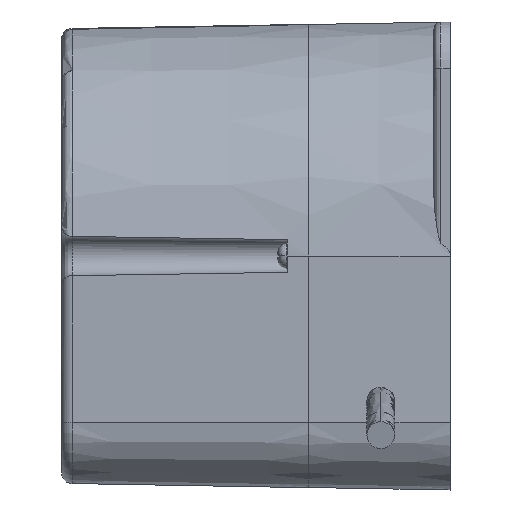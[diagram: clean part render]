
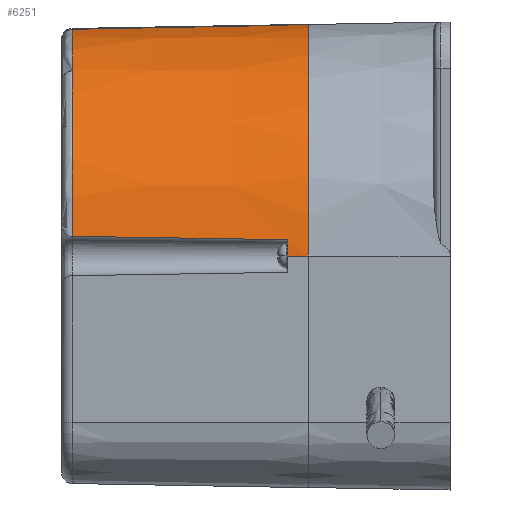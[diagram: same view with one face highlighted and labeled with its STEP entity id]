
A CAD part, left-side view. The second image highlights one B-rep face of the part: STEP entity #6251.
In plain terms, the highlighted conical face has half-angle 1 degrees and reference radius 32.672 mm.
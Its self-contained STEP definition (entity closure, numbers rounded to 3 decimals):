
#65 = DIRECTION ( 'NONE',  ( -0.017, -1., 0. ) ) ;
#66 = EDGE_CURVE ( 'NONE', #881, #758, #4451, .T. ) ;
#89 = ORIENTED_EDGE ( 'NONE', *, *, #269, .T. ) ;
#147 = EDGE_CURVE ( 'NONE', #3798, #358, #4601, .T. ) ;
#155 = DIRECTION ( 'NONE',  ( 0., 0., 1. ) ) ;
#234 = FACE_OUTER_BOUND ( 'NONE', #5411, .T. ) ;
#269 = EDGE_CURVE ( 'NONE', #758, #4736, #1446, .T. ) ;
#288 = CARTESIAN_POINT ( 'NONE',  ( -32.62, 3., 0. ) ) ;
#358 = VERTEX_POINT ( 'NONE', #6390 ) ;
#367 = CARTESIAN_POINT ( 'NONE',  ( -32.088, 27.084, 2.679 ) ) ;
#539 = AXIS2_PLACEMENT_3D ( 'NONE', #1522, #1096, #3012 ) ;
#683 = CARTESIAN_POINT ( 'NONE',  ( -2.777, 33.324, 31.97 ) ) ;
#749 = CARTESIAN_POINT ( 'NONE',  ( -2.565, 19.859, 32.223 ) ) ;
#758 = VERTEX_POINT ( 'NONE', #4226 ) ;
#818 = CARTESIAN_POINT ( 'NONE',  ( 0., 3., 0. ) ) ;
#846 = DIRECTION ( 'NONE',  ( 0., -1., 0.017 ) ) ;
#875 = CARTESIAN_POINT ( 'NONE',  ( -32.029, 30.171, 2.727 ) ) ;
#881 = VERTEX_POINT ( 'NONE', #6340 ) ;
#941 = CARTESIAN_POINT ( 'NONE',  ( 0., 0., 32.672 ) ) ;
#979 = CARTESIAN_POINT ( 'NONE',  ( -31.97, 33.326, 2.777 ) ) ;
#1051 = CARTESIAN_POINT ( 'NONE',  ( -31.97, 33.324, 2.777 ) ) ;
#1081 = CARTESIAN_POINT ( 'NONE',  ( -2.777, 33.324, 31.97 ) ) ;
#1096 = DIRECTION ( 'NONE',  ( 0., -1., 0. ) ) ;
#1099 = EDGE_CURVE ( 'NONE', #2216, #2891, #5675, .T. ) ;
#1145 = CARTESIAN_POINT ( 'NONE',  ( 0., 3., 0. ) ) ;
#1199 = CARTESIAN_POINT ( 'NONE',  ( -2.737, 30.816, 32.017 ) ) ;
#1304 = CARTESIAN_POINT ( 'NONE',  ( 0., 0., 0. ) ) ;
#1346 = DIRECTION ( 'NONE',  ( 0., 1., 0. ) ) ;
#1405 = CARTESIAN_POINT ( 'NONE',  ( -32.26, 17.926, 2.535 ) ) ;
#1443 = ORIENTED_EDGE ( 'NONE', *, *, #3580, .F. ) ;
#1446 = B_SPLINE_CURVE_WITH_KNOTS ( 'NONE', 3,
 ( #5749, #4727, #2278, #875, #367, #2829, #6331, #1405, #1890, #4247, #3859, #3791, #2859 ),
 .UNSPECIFIED., .F., .F.,
 ( 4, 3, 3, 3, 4 ),
 ( 0.001, 0.005, 0.014, 0.023, 0.032 ),
 .UNSPECIFIED. ) ;
#1498 = CARTESIAN_POINT ( 'NONE',  ( -2.324, 4.543, 32.51 ) ) ;
#1522 = CARTESIAN_POINT ( 'NONE',  ( 0., 33.326, 0. ) ) ;
#1534 = LINE ( 'NONE', #3086, #1672 ) ;
#1672 = VECTOR ( 'NONE', #65, 1000. ) ;
#1681 = ORIENTED_EDGE ( 'NONE', *, *, #66, .T. ) ;
#1863 = VECTOR ( 'NONE', #846, 1000. ) ;
#1873 = ORIENTED_EDGE ( 'NONE', *, *, #147, .T. ) ;
#1890 = CARTESIAN_POINT ( 'NONE',  ( -32.316, 14.941, 2.488 ) ) ;
#2011 = CARTESIAN_POINT ( 'NONE',  ( -2.349, 6.086, 32.481 ) ) ;
#2042 = CARTESIAN_POINT ( 'NONE',  ( -2.3, 3., 32.538 ) ) ;
#2151 = CARTESIAN_POINT ( 'NONE',  ( -32.538, 3., 2.3 ) ) ;
#2194 = ORIENTED_EDGE ( 'NONE', *, *, #6102, .T. ) ;
#2216 = VERTEX_POINT ( 'NONE', #4255 ) ;
#2278 = CARTESIAN_POINT ( 'NONE',  ( -32.01, 31.222, 2.744 ) ) ;
#2307 = LINE ( 'NONE', #3221, #1863 ) ;
#2441 = CARTESIAN_POINT ( 'NONE',  ( -31.97, 33.325, 2.777 ) ) ;
#2523 = VERTEX_POINT ( 'NONE', #5947 ) ;
#2569 = EDGE_CURVE ( 'NONE', #3914, #4736, #3300, .T. ) ;
#2574 = AXIS2_PLACEMENT_3D ( 'NONE', #1145, #5454, #3571 ) ;
#2708 = AXIS2_PLACEMENT_3D ( 'NONE', #6068, #4115, #155 ) ;
#2728 = ORIENTED_EDGE ( 'NONE', *, *, #1099, .T. ) ;
#2802 = ORIENTED_EDGE ( 'NONE', *, *, #6289, .T. ) ;
#2829 = CARTESIAN_POINT ( 'NONE',  ( -32.146, 23.998, 2.63 ) ) ;
#2859 = CARTESIAN_POINT ( 'NONE',  ( -32.538, 3., 2.3 ) ) ;
#2891 = VERTEX_POINT ( 'NONE', #941 ) ;
#3012 = DIRECTION ( 'NONE',  ( 0., 0., -1. ) ) ;
#3086 = CARTESIAN_POINT ( 'NONE',  ( -32.672, 0., 0. ) ) ;
#3202 = EDGE_CURVE ( 'NONE', #5001, #3798, #5667, .T. ) ;
#3221 = CARTESIAN_POINT ( 'NONE',  ( 0., 0., 32.672 ) ) ;
#3300 = CIRCLE ( 'NONE', #2574, 32.62 ) ;
#3537 = CARTESIAN_POINT ( 'NONE',  ( -2.47, 13.802, 32.337 ) ) ;
#3571 = DIRECTION ( 'NONE',  ( 0., 0., 1. ) ) ;
#3573 = CARTESIAN_POINT ( 'NONE',  ( -31.97, 33.324, 2.777 ) ) ;
#3580 = EDGE_CURVE ( 'NONE', #2523, #2891, #2307, .T. ) ;
#3634 = CIRCLE ( 'NONE', #5399, 32.62 ) ;
#3720 = CARTESIAN_POINT ( 'NONE',  ( -2.612, 22.83, 32.168 ) ) ;
#3791 = CARTESIAN_POINT ( 'NONE',  ( -32.483, 5.985, 2.347 ) ) ;
#3798 = VERTEX_POINT ( 'NONE', #4493 ) ;
#3859 = CARTESIAN_POINT ( 'NONE',  ( -32.427, 8.971, 2.394 ) ) ;
#3914 = VERTEX_POINT ( 'NONE', #288 ) ;
#4011 = CARTESIAN_POINT ( 'NONE',  ( -2.421, 10.716, 32.395 ) ) ;
#4109 = ORIENTED_EDGE ( 'NONE', *, *, #2569, .F. ) ;
#4115 = DIRECTION ( 'NONE',  ( 0., -1., 0. ) ) ;
#4226 = CARTESIAN_POINT ( 'NONE',  ( -31.97, 33.324, 2.777 ) ) ;
#4242 = DIRECTION ( 'NONE',  ( 0., 1., 0. ) ) ;
#4247 = CARTESIAN_POINT ( 'NONE',  ( -32.371, 11.956, 2.441 ) ) ;
#4255 = CARTESIAN_POINT ( 'NONE',  ( -32.672, 0., 0. ) ) ;
#4275 = DIRECTION ( 'NONE',  ( 0., 0., 1. ) ) ;
#4404 = CARTESIAN_POINT ( 'NONE',  ( -2.777, 33.325, 31.97 ) ) ;
#4451 = B_SPLINE_CURVE_WITH_KNOTS ( 'NONE', 3,
 ( #979, #2441, #3573, #1051 ),
 .UNSPECIFIED., .F., .F.,
 ( 4, 4 ),
 ( 0.001, 0.001 ),
 .UNSPECIFIED. ) ;
#4493 = CARTESIAN_POINT ( 'NONE',  ( -2.777, 33.324, 31.97 ) ) ;
#4596 = CARTESIAN_POINT ( 'NONE',  ( -2.518, 16.888, 32.279 ) ) ;
#4601 = B_SPLINE_CURVE_WITH_KNOTS ( 'NONE', 3,
 ( #1081, #5919, #4404, #5979 ),
 .UNSPECIFIED., .F., .F.,
 ( 4, 4 ),
 ( 0.03, 0.03 ),
 .UNSPECIFIED. ) ;
#4727 = CARTESIAN_POINT ( 'NONE',  ( -31.99, 32.273, 2.76 ) ) ;
#4736 = VERTEX_POINT ( 'NONE', #2151 ) ;
#5001 = VERTEX_POINT ( 'NONE', #5296 ) ;
#5150 = CARTESIAN_POINT ( 'NONE',  ( -2.658, 25.8, 32.112 ) ) ;
#5215 = CARTESIAN_POINT ( 'NONE',  ( -2.698, 28.308, 32.065 ) ) ;
#5296 = CARTESIAN_POINT ( 'NONE',  ( -2.3, 3., 32.538 ) ) ;
#5297 = DIRECTION ( 'NONE',  ( 0., 0., 1. ) ) ;
#5399 = AXIS2_PLACEMENT_3D ( 'NONE', #818, #1346, #5297 ) ;
#5411 = EDGE_LOOP ( 'NONE', ( #1873, #2802, #1681, #89, #4109, #2194, #2728, #1443, #5598, #6042 ) ) ;
#5445 = CARTESIAN_POINT ( 'NONE',  ( -2.373, 7.629, 32.452 ) ) ;
#5454 = DIRECTION ( 'NONE',  ( 0., 1., 0. ) ) ;
#5598 = ORIENTED_EDGE ( 'NONE', *, *, #5976, .F. ) ;
#5667 = B_SPLINE_CURVE_WITH_KNOTS ( 'NONE', 3,
 ( #2042, #1498, #2011, #5445, #4011, #3537, #4596, #749, #3720, #5150, #5215, #1199, #683 ),
 .UNSPECIFIED., .F., .F.,
 ( 4, 3, 3, 3, 4 ),
 ( 0., 0.005, 0.014, 0.023, 0.03 ),
 .UNSPECIFIED. ) ;
#5675 = CIRCLE ( 'NONE', #6086, 32.672 ) ;
#5749 = CARTESIAN_POINT ( 'NONE',  ( -31.97, 33.324, 2.777 ) ) ;
#5919 = CARTESIAN_POINT ( 'NONE',  ( -2.777, 33.324, 31.97 ) ) ;
#5947 = CARTESIAN_POINT ( 'NONE',  ( 0., 3., 32.62 ) ) ;
#5976 = EDGE_CURVE ( 'NONE', #5001, #2523, #3634, .T. ) ;
#5979 = CARTESIAN_POINT ( 'NONE',  ( -2.777, 33.326, 31.97 ) ) ;
#6042 = ORIENTED_EDGE ( 'NONE', *, *, #3202, .T. ) ;
#6068 = CARTESIAN_POINT ( 'NONE',  ( 0., 0., 0. ) ) ;
#6086 = AXIS2_PLACEMENT_3D ( 'NONE', #1304, #4242, #4275 ) ;
#6102 = EDGE_CURVE ( 'NONE', #3914, #2216, #1534, .T. ) ;
#6127 = CIRCLE ( 'NONE', #539, 32.09 ) ;
#6232 = CONICAL_SURFACE ( 'NONE', #2708, 32.672, 0.017 ) ;
#6251 = ADVANCED_FACE ( 'NONE', ( #234 ), #6232, .T. ) ;
#6289 = EDGE_CURVE ( 'NONE', #358, #881, #6127, .T. ) ;
#6331 = CARTESIAN_POINT ( 'NONE',  ( -32.204, 20.912, 2.582 ) ) ;
#6340 = CARTESIAN_POINT ( 'NONE',  ( -31.97, 33.326, 2.777 ) ) ;
#6390 = CARTESIAN_POINT ( 'NONE',  ( -2.777, 33.326, 31.97 ) ) ;
